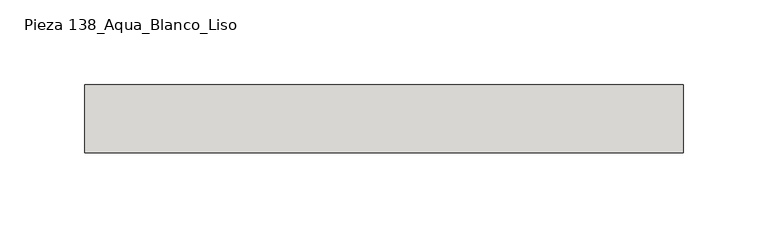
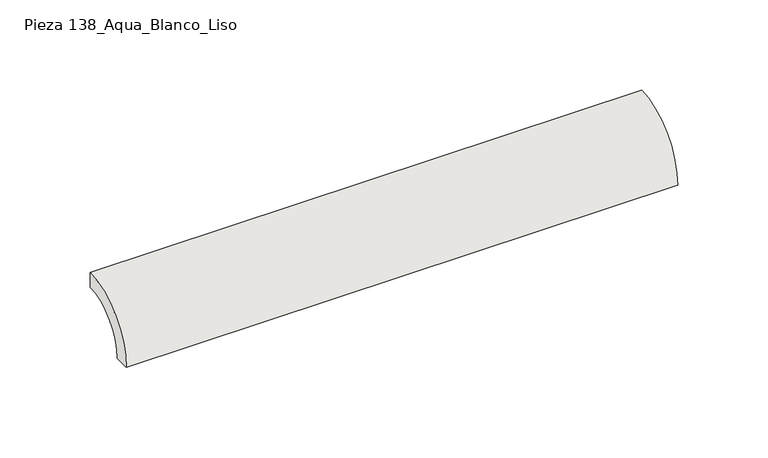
"""IFC4 building model written with IfcOpenShell, lengths in millimetres: slab geometry, ROSA GRES_138 : Pieza 138_Aqua_Blanco_Liso."""

from ifc_helpers import new_model, si_unit, point, frame, frame_2d, origin, origin_2d, place, context, project, spatial, polyline, circle_curve, trimmed, segment, composite_curve, outline, extrude, source, transform, mapped, element, save


def pieza_138_aqua_blanco_liso_0c74f9c0(model_context):
    return source(origin(), model_context, "Body", "SweptSolid", [
        extrude(outline(composite_curve([segment(polyline([(0.0, 40.0), (0.0, 30.0265886)]), True, "CONTINUOUS"), segment(trimmed(circle_curve(frame_2d((-0.0044453, 0.0044453)), 30.0221435), [point((0.0, 30.0265886))], [point((-30.0265886, 0.0))], True, "CARTESIAN"), True, "CONTINUOUS"), segment(polyline([(-30.0265886, 0.0), (-40.0, 0.0)]), True, "CONTINUOUS"), segment(trimmed(circle_curve(origin_2d(), 40.0), [point((-40.0, 0.0))], [point((0.0, 40.0))], False, "CARTESIAN"), True, "CONTINUOUS")], self_intersect=False)), frame((0.0, 0.0, 0.0), z_axis=(1.0, 0.0, 0.0), x_axis=(0.0, 1.0, 0.0)), (0.0, 0.0, 1.0), 352.3915954),
    ])


if __name__ == "__main__":
    model = new_model("IFC4")
    model_context = context("Model", 3, world=origin())
    ifc_project = project(units=[si_unit("LENGTHUNIT", "METRE", prefix="MILLI")], contexts=[model_context])
    site = spatial("IfcSite", under=ifc_project)
    building = spatial("IfcBuilding", under=site)
    placement = place(None, origin())
    pieza_138_aqua_blanco_liso_shape = pieza_138_aqua_blanco_liso_0c74f9c0(model_context)
    element("IfcSlab", 1, ObjectType="ROSA GRES_138 : Pieza 138_Aqua_Blanco_Liso", at=placement, inside=building, context=model_context, shape_type="MappedRepresentation", body=[
        mapped(pieza_138_aqua_blanco_liso_shape, transform((0.0, 0.0, 0.0), x_axis=(1.0, 0.0, 0.0), y_axis=(0.0, 1.0, 0.0), z_axis=(0.0, 0.0, 1.0))),
    ])
    save(model, "model.ifc")
